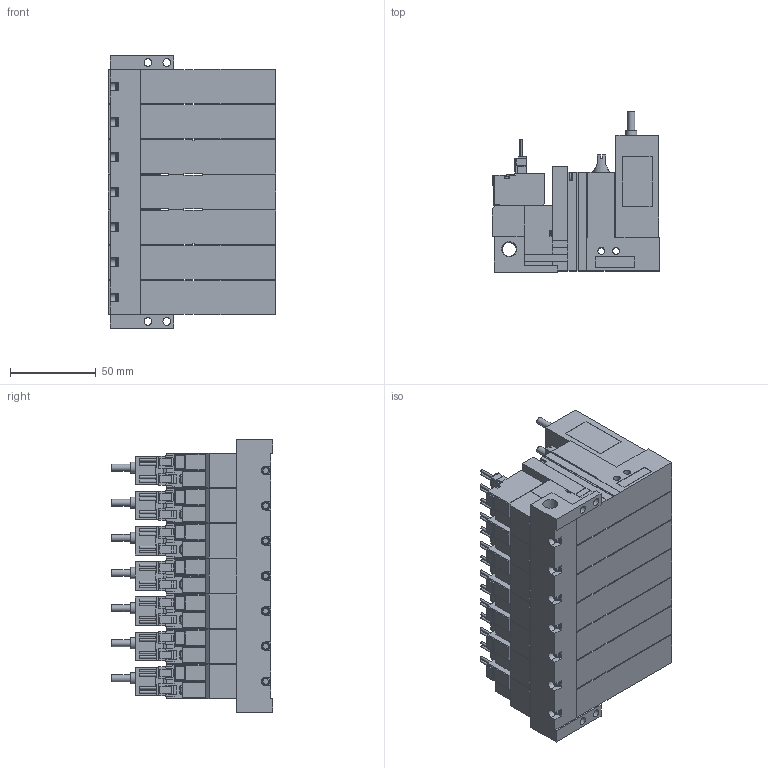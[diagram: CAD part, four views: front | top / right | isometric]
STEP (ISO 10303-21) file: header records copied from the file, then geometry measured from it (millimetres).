
FILE_DESCRIPTION(('STEP AP203'),'1');
FILE_NAME('VG_VGPLC5ALR707.stp','2025-02-25T04:41:33',(' '),(' '),'Spatial InterOp 3D',' ',' ');
FILE_SCHEMA(('CONFIG_CONTROL_DESIGN'));
Length unit declared in the file: millimetre
Products named in the file (5): BMC22M※※※※VG_VGPLC5ALR707; Solenoid valve A; Pressure sensor VGLC; Unit LC; Base MR70R
Assembly tree (22 placements, depth 2):
  BMC22M※※※※VG_VGPLC5ALR707
    Solenoid valve A  x7
    Pressure sensor VGLC  x7
    Unit LC  x7
    Base MR70R
Bounding box: 97.6 x 94 x 159 mm (x, y, z)
Volume: 787683.5 mm3; surface area: 201235.7 mm2
Topology: 22 solids, 22 shells, 2926 faces, 7829 edges, 5150 vertices
Faces by surface type: plane 2478, cylinder 362, cone 51, torus 35
Full cylindrical faces by diameter (mm): 1.4 x28, 2.5 x21, 3 x28, 3.5 x28, 3.6 x7, 4 x42, 4.134 x7, 4.5 x4, 5.2 x7, 6 x7, 6.5 x7, 6.6 x7, 8.279 x1
Entity records: 16394 total; most frequent: CARTESIAN_POINT 3174, DIRECTION 2617, ORIENTED_EDGE 2534, EDGE_CURVE 1267, LINE 1013, VECTOR 1013, VERTEX_POINT 888, AXIS2_PLACEMENT_3D 802
